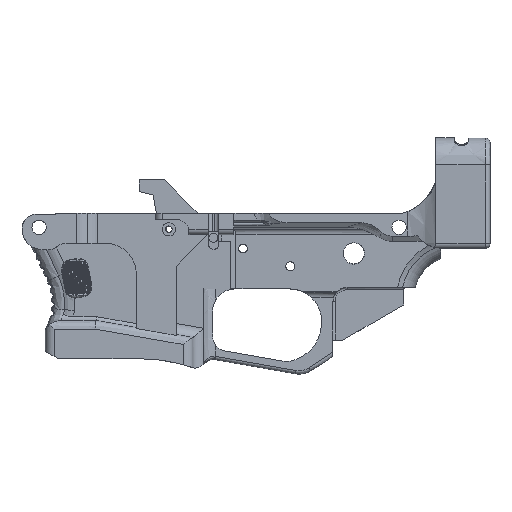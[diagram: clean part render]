
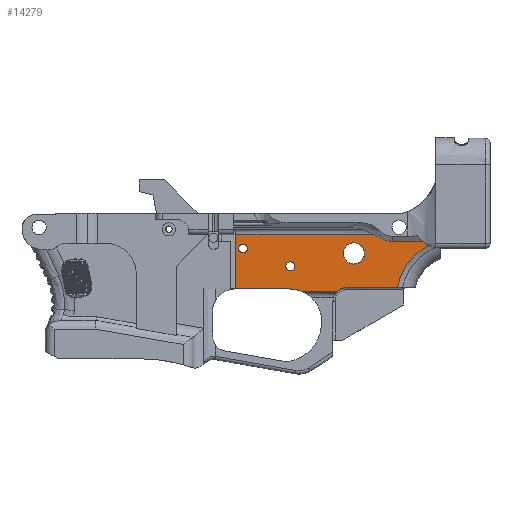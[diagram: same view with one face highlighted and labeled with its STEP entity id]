
A CAD part, left-side view. The second image highlights one B-rep face of the part: STEP entity #14279.
In plain terms, the highlighted planar face has unit normal (-1, 0, 0).
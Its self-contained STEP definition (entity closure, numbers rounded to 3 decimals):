
#156=FACE_BOUND('',#3685,.T.);
#157=FACE_BOUND('',#3686,.T.);
#158=FACE_BOUND('',#3687,.T.);
#256=PLANE('',#15264);
#718=LINE('',#27248,#1639);
#739=LINE('',#27346,#1660);
#745=LINE('',#27608,#1666);
#760=LINE('',#27672,#1681);
#761=LINE('',#27675,#1682);
#770=LINE('',#27774,#1691);
#1639=VECTOR('',#16898,10.);
#1660=VECTOR('',#16945,10.);
#1666=VECTOR('',#16961,10.);
#1681=VECTOR('',#16984,10.);
#1682=VECTOR('',#16987,10.);
#1691=VECTOR('',#17008,10.);
#2867=FACE_OUTER_BOUND('',#3684,.T.);
#3684=EDGE_LOOP('',(#10495,#10496,#10497,#10498,#10499,#10500,#10501,#10502,
#10503,#10504,#10505,#10506));
#3685=EDGE_LOOP('',(#10507));
#3686=EDGE_LOOP('',(#10508));
#3687=EDGE_LOOP('',(#10509));
#4551=B_SPLINE_CURVE_WITH_KNOTS('',3,(#27514,#27515,#27516,#27517),
 .UNSPECIFIED.,.F.,.F.,(4,4),(0.,0.342),.UNSPECIFIED.);
#4554=B_SPLINE_CURVE_WITH_KNOTS('',3,(#27578,#27579,#27580,#27581,#27582,
#27583,#27584,#27585,#27586,#27587,#27588,#27589,#27590,#27591,#27592,#27593),
 .UNSPECIFIED.,.F.,.F.,(4,3,3,3,3,4),(-2.697,-1.927,
-1.542,-0.772,-0.387,-0.246),
 .UNSPECIFIED.);
#5294=CIRCLE('',#15245,12.);
#5299=CIRCLE('',#15254,6.35);
#5302=CIRCLE('',#15259,14.275);
#5307=CIRCLE('',#15265,10.575);
#5308=CIRCLE('',#15266,4.763);
#5309=CIRCLE('',#15267,1.981);
#5310=CIRCLE('',#15268,1.981);
#5993=VERTEX_POINT('',#27232);
#6000=VERTEX_POINT('',#27246);
#6025=VERTEX_POINT('',#27344);
#6026=VERTEX_POINT('',#27345);
#6032=VERTEX_POINT('',#27379);
#6037=VERTEX_POINT('',#27506);
#6038=VERTEX_POINT('',#27513);
#6040=VERTEX_POINT('',#27577);
#6060=VERTEX_POINT('',#27670);
#6061=VERTEX_POINT('',#27674);
#6072=VERTEX_POINT('',#27745);
#6077=VERTEX_POINT('',#27773);
#6086=VERTEX_POINT('',#27864);
#6087=VERTEX_POINT('',#27866);
#6088=VERTEX_POINT('',#27868);
#7664=EDGE_CURVE('',#6000,#5993,#718,.T.);
#7695=EDGE_CURVE('',#6025,#6026,#739,.T.);
#7703=EDGE_CURVE('',#6026,#6032,#5294,.T.);
#7710=EDGE_CURVE('',#6038,#6037,#4551,.T.);
#7713=EDGE_CURVE('',#6032,#6040,#4554,.F.);
#7716=EDGE_CURVE('',#5993,#6037,#745,.T.);
#7736=EDGE_CURVE('',#6000,#6060,#760,.T.);
#7737=EDGE_CURVE('',#6040,#6061,#761,.T.);
#7749=EDGE_CURVE('',#6061,#6072,#5299,.T.);
#7755=EDGE_CURVE('',#6072,#6077,#770,.T.);
#7758=EDGE_CURVE('',#6060,#6077,#5302,.T.);
#7768=EDGE_CURVE('',#6038,#6025,#5307,.T.);
#7769=EDGE_CURVE('',#6086,#6086,#5308,.T.);
#7770=EDGE_CURVE('',#6087,#6087,#5309,.T.);
#7771=EDGE_CURVE('',#6088,#6088,#5310,.T.);
#10495=ORIENTED_EDGE('',*,*,#7664,.F.);
#10496=ORIENTED_EDGE('',*,*,#7736,.T.);
#10497=ORIENTED_EDGE('',*,*,#7758,.T.);
#10498=ORIENTED_EDGE('',*,*,#7755,.F.);
#10499=ORIENTED_EDGE('',*,*,#7749,.F.);
#10500=ORIENTED_EDGE('',*,*,#7737,.F.);
#10501=ORIENTED_EDGE('',*,*,#7713,.F.);
#10502=ORIENTED_EDGE('',*,*,#7703,.F.);
#10503=ORIENTED_EDGE('',*,*,#7695,.F.);
#10504=ORIENTED_EDGE('',*,*,#7768,.F.);
#10505=ORIENTED_EDGE('',*,*,#7710,.T.);
#10506=ORIENTED_EDGE('',*,*,#7716,.F.);
#10507=ORIENTED_EDGE('',*,*,#7769,.F.);
#10508=ORIENTED_EDGE('',*,*,#7770,.F.);
#10509=ORIENTED_EDGE('',*,*,#7771,.F.);
#14279=ADVANCED_FACE('',(#2867,#156,#157,#158),#256,.T.);
#15245=AXIS2_PLACEMENT_3D('',#27380,#16956,#16957);
#15254=AXIS2_PLACEMENT_3D('',#27746,#16999,#17000);
#15259=AXIS2_PLACEMENT_3D('',#27786,#17012,#17013);
#15264=AXIS2_PLACEMENT_3D('',#27862,#17023,#17024);
#15265=AXIS2_PLACEMENT_3D('',#27863,#17025,#17026);
#15266=AXIS2_PLACEMENT_3D('',#27865,#17027,#17028);
#15267=AXIS2_PLACEMENT_3D('',#27867,#17029,#17030);
#15268=AXIS2_PLACEMENT_3D('',#27869,#17031,#17032);
#16898=DIRECTION('',(0.,0.,1.));
#16945=DIRECTION('',(0.,-1.,0.));
#16956=DIRECTION('center_axis',(-1.,0.,
0.));
#16957=DIRECTION('ref_axis',(0.,1.,0.));
#16961=DIRECTION('',(0.,-1.,0.));
#16984=DIRECTION('',(0.,-1.,0.));
#16987=DIRECTION('',(0.,1.,0.));
#16999=DIRECTION('center_axis',(-1.,0.,
0.));
#17000=DIRECTION('ref_axis',(0.,-0.707,0.707));
#17008=DIRECTION('',(0.,1.,0.));
#17012=DIRECTION('center_axis',(1.,0.,
0.));
#17013=DIRECTION('ref_axis',(0.,0.,
-1.));
#17023=DIRECTION('center_axis',(-1.,0.,
0.));
#17024=DIRECTION('ref_axis',(0.,0.,1.));
#17025=DIRECTION('center_axis',(-1.,0.,
0.));
#17026=DIRECTION('ref_axis',(0.,0.995,-0.105));
#17027=DIRECTION('center_axis',(-1.,0.,
0.));
#17028=DIRECTION('ref_axis',(0.,-0.707,0.707));
#17029=DIRECTION('center_axis',(-1.,0.,
0.));
#17030=DIRECTION('ref_axis',(0.,0.,
-1.));
#17031=DIRECTION('center_axis',(-1.,0.,
0.));
#17032=DIRECTION('ref_axis',(0.,0.,
-1.));
#27232=CARTESIAN_POINT('',(10.266,-15.204,11.979));
#27246=CARTESIAN_POINT('',(10.265,-15.204,-12.602));
#27248=CARTESIAN_POINT('',(10.266,-15.204,6.48));
#27344=CARTESIAN_POINT('',(10.297,-85.666,8.787));
#27345=CARTESIAN_POINT('',(10.303,-99.398,8.785));
#27346=CARTESIAN_POINT('',(10.277,-40.97,8.793));
#27379=CARTESIAN_POINT('',(10.304,-102.011,7.019));
#27380=CARTESIAN_POINT('Origin',(10.307,-107.365,17.759));
#27506=CARTESIAN_POINT('',(10.293,-77.135,11.979));
#27513=CARTESIAN_POINT('',(10.295,-80.125,10.355));
#27514=CARTESIAN_POINT('Ctrl Pts',(10.295,-80.125,10.355));
#27515=CARTESIAN_POINT('Ctrl Pts',(10.294,-79.154,10.953));
#27516=CARTESIAN_POINT('Ctrl Pts',(10.294,-78.158,11.495));
#27517=CARTESIAN_POINT('Ctrl Pts',(10.293,-77.135,11.979));
#27577=CARTESIAN_POINT('',(10.297,-87.949,-11.94));
#27578=CARTESIAN_POINT('Ctrl Pts',(10.297,-87.949,-11.94));
#27579=CARTESIAN_POINT('Ctrl Pts',(10.297,-88.408,-9.43));
#27580=CARTESIAN_POINT('Ctrl Pts',(10.298,-89.242,-6.958));
#27581=CARTESIAN_POINT('Ctrl Pts',(10.298,-90.394,-4.675));
#27582=CARTESIAN_POINT('Ctrl Pts',(10.299,-90.971,-3.534));
#27583=CARTESIAN_POINT('Ctrl Pts',(10.299,-91.627,-2.44));
#27584=CARTESIAN_POINT('Ctrl Pts',(10.299,-92.361,-1.395));
#27585=CARTESIAN_POINT('Ctrl Pts',(10.3,-93.831,0.696));
#27586=CARTESIAN_POINT('Ctrl Pts',(10.301,-95.615,2.592));
#27587=CARTESIAN_POINT('Ctrl Pts',(10.302,-97.615,4.182));
#27588=CARTESIAN_POINT('Ctrl Pts',(10.302,-98.616,4.978));
#27589=CARTESIAN_POINT('Ctrl Pts',(10.303,-99.67,5.697));
#27590=CARTESIAN_POINT('Ctrl Pts',(10.303,-100.777,6.341));
#27591=CARTESIAN_POINT('Ctrl Pts',(10.304,-101.181,6.577));
#27592=CARTESIAN_POINT('Ctrl Pts',(10.304,-101.593,6.803));
#27593=CARTESIAN_POINT('Ctrl Pts',(10.304,-102.01,7.018));
#27608=CARTESIAN_POINT('',(10.263,-6.732,11.979));
#27670=CARTESIAN_POINT('',(10.276,-39.405,-12.602));
#27672=CARTESIAN_POINT('',(10.259,-0.52,-12.602));
#27674=CARTESIAN_POINT('',(10.287,-65.212,-11.94));
#27675=CARTESIAN_POINT('',(10.243,36.339,-11.94));
#27745=CARTESIAN_POINT('',(10.285,-60.716,-13.805));
#27746=CARTESIAN_POINT('Origin',(10.287,-65.212,-18.29));
#27773=CARTESIAN_POINT('',(10.278,-45.142,-13.805));
#27774=CARTESIAN_POINT('',(10.243,36.339,-13.805));
#27786=CARTESIAN_POINT('Origin',(10.275,-39.405,-26.877));
#27862=CARTESIAN_POINT('Origin',(10.26,-0.604,21.674));
#27863=CARTESIAN_POINT('Origin',(10.297,-85.667,19.362));
#27864=CARTESIAN_POINT('',(10.287,-64.879,-0.016));
#27865=CARTESIAN_POINT('Origin',(10.289,-68.247,3.351));
#27866=CARTESIAN_POINT('',(10.276,-39.659,-0.435));
#27867=CARTESIAN_POINT('Origin',(10.276,-39.659,-2.417));
#27868=CARTESIAN_POINT('',(10.267,-18.384,7.54));
#27869=CARTESIAN_POINT('Origin',(10.267,-18.384,5.559));
